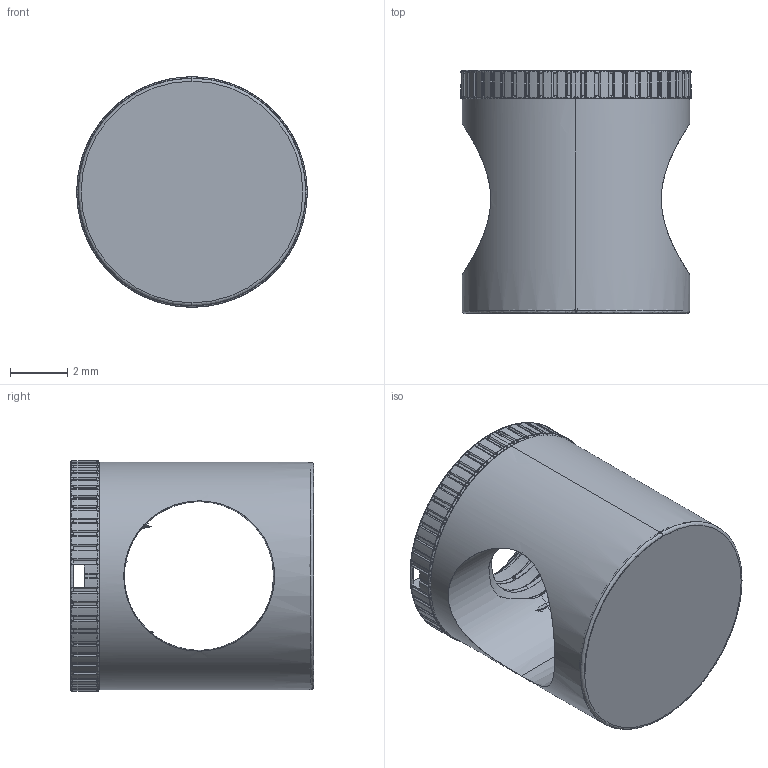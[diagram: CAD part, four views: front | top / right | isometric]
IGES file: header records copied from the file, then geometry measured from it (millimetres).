
Start section: 3D InterOp IGES (v. 2022 1.0.1), Spatial Corp. Copyright (c) 1999-2020.
Global section: file name: E544_MINI_11.03.480 Cylinder f. Mini system S.igs; native system: Spatial Corp.; preprocessor: 3D InterOp GENERIC/IGES 3.0; author: Noname; organization: Noname; date: 20251208.165619; units: millimetre
Bounding box: 8.05 x 8.5 x 8.05 mm (x, y, z)
Surface area: 1168.5 mm2 (no closed solid volume)
Topology: 0 solids, 0 shells, 787 faces, 5093 edges, 4498 vertices
Faces by surface type: revolution 746, extrusion 33, bspline 8
